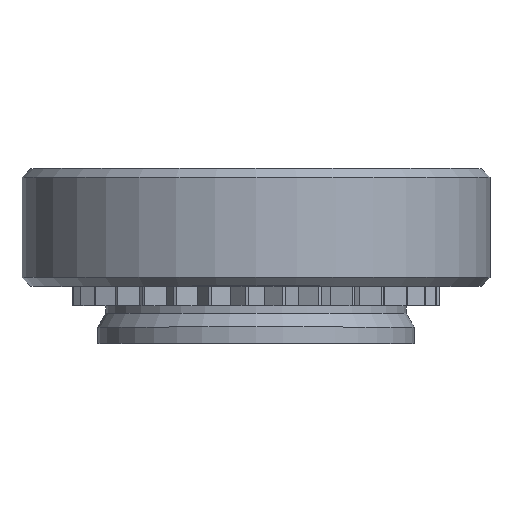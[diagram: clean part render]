
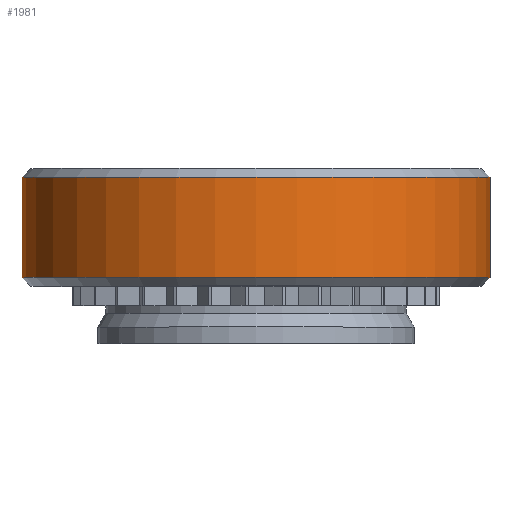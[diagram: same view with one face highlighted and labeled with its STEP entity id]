
A CAD part, top view. The second image highlights one B-rep face of the part: STEP entity #1981.
In plain terms, the highlighted cylindrical face has radius 3.975 mm (diameter 7.95 mm), a full revolution.
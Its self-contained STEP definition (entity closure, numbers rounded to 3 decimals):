
#85=CYLINDRICAL_SURFACE('',#2113,3.975);
#121=FACE_OUTER_BOUND('',#227,.T.);
#227=EDGE_LOOP('',(#1374,#1375,#1376,#1377,#1378,#1379));
#337=LINE('',#2897,#563);
#563=VECTOR('',#2305,3.975);
#789=CIRCLE('',#2111,3.975);
#790=CIRCLE('',#2112,3.975);
#791=CIRCLE('',#2114,3.975);
#792=CIRCLE('',#2115,3.975);
#866=VERTEX_POINT('',#2890);
#867=VERTEX_POINT('',#2892);
#868=VERTEX_POINT('',#2896);
#869=VERTEX_POINT('',#2898);
#1068=EDGE_CURVE('',#866,#867,#789,.T.);
#1069=EDGE_CURVE('',#867,#866,#790,.T.);
#1070=EDGE_CURVE('',#867,#868,#337,.T.);
#1071=EDGE_CURVE('',#869,#868,#791,.T.);
#1072=EDGE_CURVE('',#868,#869,#792,.T.);
#1374=ORIENTED_EDGE('',*,*,#1068,.F.);
#1375=ORIENTED_EDGE('',*,*,#1069,.F.);
#1376=ORIENTED_EDGE('',*,*,#1070,.T.);
#1377=ORIENTED_EDGE('',*,*,#1071,.F.);
#1378=ORIENTED_EDGE('',*,*,#1072,.F.);
#1379=ORIENTED_EDGE('',*,*,#1070,.F.);
#1981=ADVANCED_FACE('',(#121),#85,.T.);
#2111=AXIS2_PLACEMENT_3D('',#2893,#2299,#2300);
#2112=AXIS2_PLACEMENT_3D('',#2894,#2301,#2302);
#2113=AXIS2_PLACEMENT_3D('',#2895,#2303,#2304);
#2114=AXIS2_PLACEMENT_3D('',#2899,#2306,#2307);
#2115=AXIS2_PLACEMENT_3D('',#2900,#2308,#2309);
#2299=DIRECTION('center_axis',(0.,1.,0.));
#2300=DIRECTION('ref_axis',(1.,0.,0.));
#2301=DIRECTION('center_axis',(0.,1.,0.));
#2302=DIRECTION('ref_axis',(1.,0.,0.));
#2303=DIRECTION('center_axis',(0.,1.,0.));
#2304=DIRECTION('ref_axis',(-1.,0.,0.));
#2305=DIRECTION('',(0.,-1.,0.));
#2306=DIRECTION('center_axis',(0.,-1.,0.));
#2307=DIRECTION('ref_axis',(1.,0.,0.));
#2308=DIRECTION('center_axis',(0.,-1.,0.));
#2309=DIRECTION('ref_axis',(1.,0.,0.));
#2890=CARTESIAN_POINT('',(-3.975,2.82,0.));
#2892=CARTESIAN_POINT('',(3.975,2.82,0.));
#2893=CARTESIAN_POINT('Origin',(0.,2.82,0.));
#2894=CARTESIAN_POINT('Origin',(0.,2.82,0.));
#2895=CARTESIAN_POINT('Origin',(0.,1.97,0.));
#2896=CARTESIAN_POINT('',(3.975,1.12,0.));
#2897=CARTESIAN_POINT('',(3.975,1.97,0.));
#2898=CARTESIAN_POINT('',(-3.975,1.12,0.));
#2899=CARTESIAN_POINT('Origin',(0.,1.12,0.));
#2900=CARTESIAN_POINT('Origin',(0.,1.12,0.));
